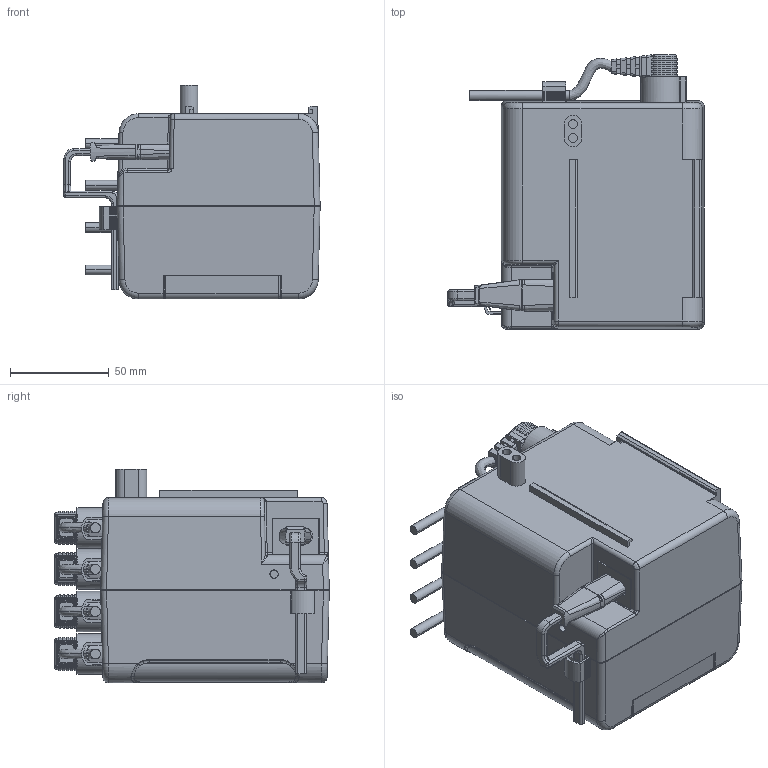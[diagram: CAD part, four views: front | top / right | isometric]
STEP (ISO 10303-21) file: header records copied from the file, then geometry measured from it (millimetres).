
FILE_DESCRIPTION((''),'2;1');
FILE_NAME('CBT2-CONTROL_ASM','2015-03-23T',('lily'),(''),'PRO/ENGINEER BY PARAMETRIC TECHNOLOGY CORPORATION, 2014200','PRO/ENGINEER BY PARAMETRIC TECHNOLOGY CORPORATION, 2014200','');
FILE_SCHEMA(('CONFIG_CONTROL_DESIGN'));
Products named in the file (5): BREP_WITH_VOIDS_93690; BREP_WITH_VOIDS_92358_ASM; PRT0012_ASM_ASM; CBT2-CONTROL_ASM_ASM; CBT2-CONTROL_ASM
Assembly tree (4 placements, depth 5):
  CBT2-CONTROL_ASM
    CBT2-CONTROL_ASM_ASM
      PRT0012_ASM_ASM
        BREP_WITH_VOIDS_92358_ASM
          BREP_WITH_VOIDS_93690
Bounding box: 130 x 139.3 x 108.5 mm (x, y, z)
Volume: 319202.8 mm3; surface area: 239535 mm2
Topology: 1 solids, 20 shells, 2551 faces, 7429 edges, 4953 vertices
Faces by surface type: plane 1593, cylinder 670, torus 124, bspline 114, cone 38, sphere 12
Entity records: 93806 total; most frequent: CARTESIAN_POINT 26520, ORIENTED_EDGE 14842, DIRECTION 13133, EDGE_CURVE 7421, VERTEX_POINT 4953, VECTOR 4641, LINE 4641, AXIS2_PLACEMENT_3D 4246
